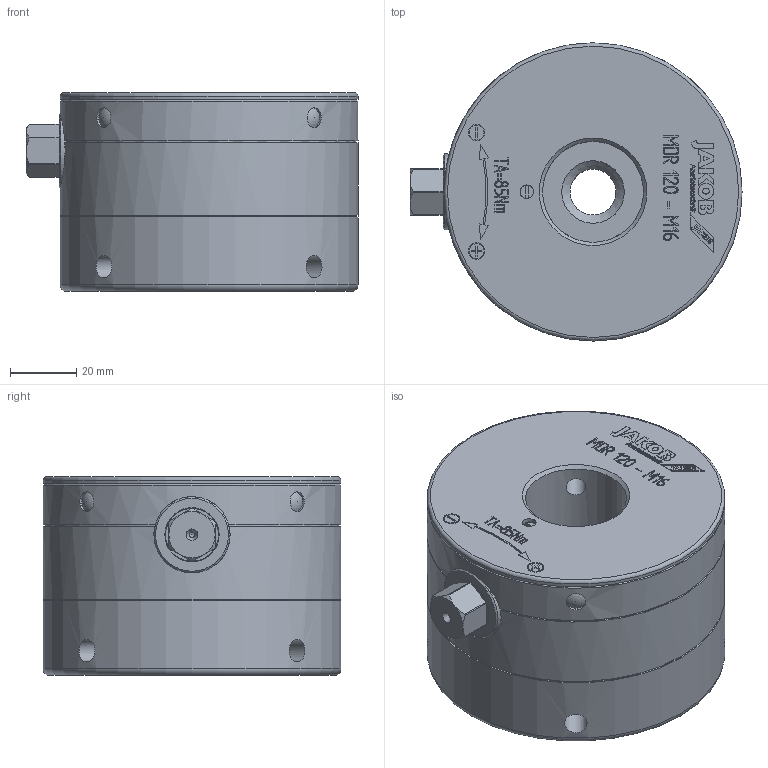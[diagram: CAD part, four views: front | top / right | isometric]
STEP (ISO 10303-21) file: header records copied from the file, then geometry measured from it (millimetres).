
FILE_DESCRIPTION( ( 'Unknown' ), '1' );
FILE_NAME( 'F:/PR/14_Step-Dateien/MDR - MDR-F/MDR 120 - M16 - SW 14.stp', 'Unknown', ( 'Unknown' ), ( 'Unknown' ), 'PSStep 10.1', 'Unknown', ' ' );
FILE_SCHEMA( ( 'AUTOMOTIVE_DESIGN { 1 0 10303 214 1 1 1 1 }' ) );
Length unit declared in the file: millimetre
Products named in the file (1): Text-MDR 120 - M16
Bounding box: 100.3 x 90 x 60.1 mm (x, y, z)
Volume: 353154 mm3; surface area: 37215.5 mm2
Topology: 1 solids, 9 shells, 603 faces, 1507 edges, 999 vertices
Faces by surface type: plane 425, cylinder 63, extrusion 59, cone 36, sphere 16, torus 4
Full cylindrical faces by diameter (mm): 1.6 x2, 4.134 x1, 4.5 x2, 5 x2, 6 x8, 6.8 x8, 12 x1, 13.835 x1, 16 x1, 30.5 x1, 33.709 x1, 42 x1, 89 x1, 90 x4
Entity records: 25117 total; most frequent: CARTESIAN_POINT 6680, ORIENTED_EDGE 2730, DIRECTION 2532, EDGE_CURVE 1365, VECTOR 1088, LINE 1029, VERTEX_POINT 948, EDGE_LOOP 775
